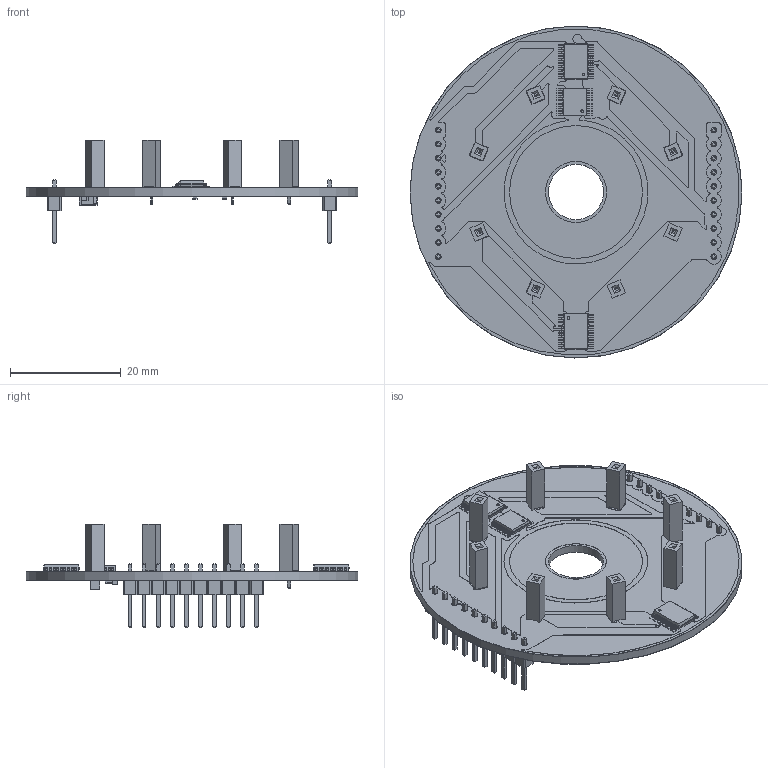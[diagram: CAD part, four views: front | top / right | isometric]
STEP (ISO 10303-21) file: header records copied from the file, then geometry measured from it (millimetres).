
FILE_DESCRIPTION(('KiCad electronic assembly'),'2;1');
FILE_NAME('muxed_sense_v2.step','2025-12-02T09:44:53',('Pcbnew'),( 'Kicad'),'Open CASCADE STEP processor 7.8','KiCad to STEP converter' ,'Unknown');
FILE_SCHEMA(('AUTOMOTIVE_DESIGN { 1 0 10303 214 1 1 1 1 }'));
Length unit declared in the file: millimetre
Products named in the file (11): muxed_sense_v2 1; PinSocket_1x01_P2.54mm_Vertical; TSSOP-16_4.4x5mm_P0.65mm; TSSOP-20_4.4x6.5mm_P0.65mm; R_0603_1608Metric; C_0603_1608Metric; PinHeader_1x10_P2.54mm_Vertical; C_1206_3216Metric; muxed_sense_v2_copper; muxed_sense_v2_soldermask; muxed_sense_v2_PCB
Assembly tree (20 placements, depth 2):
  muxed_sense_v2 1
    PinSocket_1x01_P2.54mm_Vertical  x8
    TSSOP-16_4.4x5mm_P0.65mm
    TSSOP-20_4.4x6.5mm_P0.65mm  x2
    R_0603_1608Metric  x2
    C_0603_1608Metric
    PinHeader_1x10_P2.54mm_Vertical  x2
    C_1206_3216Metric
    muxed_sense_v2_copper
    muxed_sense_v2_soldermask
    muxed_sense_v2_PCB
Bounding box: 60 x 60 x 18.72 mm (x, y, z)
Volume: 5136.8 mm3; surface area: 19792 mm2
Topology: 27 solids, 41 shells, 3014 faces, 8265 edges, 5382 vertices
Faces by surface type: plane 2308, cylinder 590, bspline 116
Full cylindrical faces by diameter (mm): 0.5 x3, 1 x28, 10 x1, 11.009 x1, 24 x1, 58.999 x1, 60 x1
Entity records: 76390 total; most frequent: CARTESIAN_POINT 12505, ORIENTED_EDGE 12044, DIRECTION 11296, EDGE_CURVE 6072, LINE 4962, VECTOR 4962, VERTEX_POINT 3992, AXIS2_PLACEMENT_3D 3167
